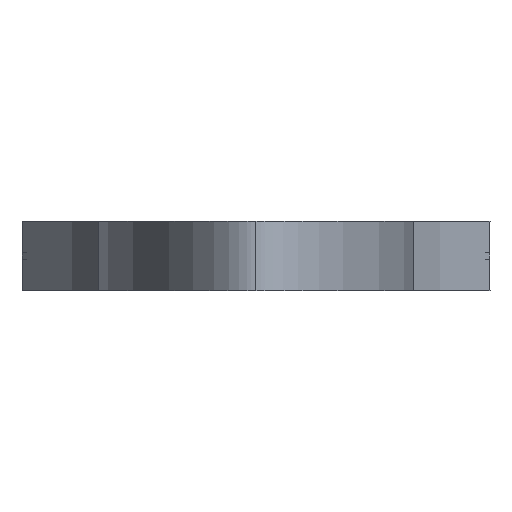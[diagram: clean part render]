
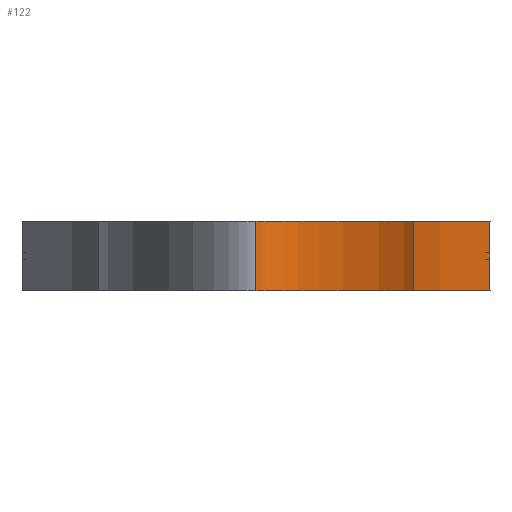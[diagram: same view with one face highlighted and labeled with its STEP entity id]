
A CAD part, left-side view. The second image highlights one B-rep face of the part: STEP entity #122.
In plain terms, the highlighted free-form (B-spline) face has degree [3, 1] with [12, 2] control points.
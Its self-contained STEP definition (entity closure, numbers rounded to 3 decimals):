
#11 = CARTESIAN_POINT ( 'NONE',  ( 89.014, 11.106, -3. ) ) ;
#122 = ADVANCED_FACE ( 'NONE', ( #3540 ), #166, .T. ) ;
#153 = CARTESIAN_POINT ( 'NONE',  ( 15.482, 19.337, 2.5 ) ) ;
#166 = B_SPLINE_SURFACE_WITH_KNOTS ( 'NONE', 3, 1, ( 
 ( #2290, #3443 ),
 ( #4630, #1927 ),
 ( #3902, #1952 ),
 ( #4680, #3493 ),
 ( #3468, #431 ),
 ( #1618, #1156 ),
 ( #4277, #3826 ),
 ( #4302, #3927 ),
 ( #744, #356 ),
 ( #378, #841 ),
 ( #4652, #1898 ),
 ( #4984, #1230 ) ),
 .UNSPECIFIED., .F., .F., .F.,
 ( 4, 1, 1, 1, 1, 1, 1, 1, 1, 4 ),
 ( 2, 2 ),
 ( 0., 0.104, 0.124, 0.198, 0.222, 0.349, 0.508, 0.659, 0.865, 1. ),
 ( 0., 1. ),
 .UNSPECIFIED. ) ;
#178 = EDGE_CURVE ( 'NONE', #245, #599, #1979, .T. ) ;
#216 = LINE ( 'NONE', #2113, #4024 ) ;
#245 = VERTEX_POINT ( 'NONE', #2734 ) ;
#342 = CARTESIAN_POINT ( 'NONE',  ( 15.482, 19.337, -3. ) ) ;
#356 = CARTESIAN_POINT ( 'NONE',  ( 58.111, 19.758, -3. ) ) ;
#378 = CARTESIAN_POINT ( 'NONE',  ( 75.673, 21.078, 2.5 ) ) ;
#431 = CARTESIAN_POINT ( 'NONE',  ( 10.679, 21.348, -3. ) ) ;
#441 = CARTESIAN_POINT ( 'NONE',  ( 1.35, 29.727, -3. ) ) ;
#536 = CARTESIAN_POINT ( 'NONE',  ( 89.014, 11.106, 2.5 ) ) ;
#599 = VERTEX_POINT ( 'NONE', #3386 ) ;
#670 = DIRECTION ( 'NONE',  ( 0., 0., -1. ) ) ;
#744 = CARTESIAN_POINT ( 'NONE',  ( 58.111, 19.758, 2.5 ) ) ;
#841 = CARTESIAN_POINT ( 'NONE',  ( 75.673, 21.078, -3. ) ) ;
#894 = CARTESIAN_POINT ( 'NONE',  ( 89.014, 11.106, 2.5 ) ) ;
#954 = VERTEX_POINT ( 'NONE', #3691 ) ;
#1142 = CARTESIAN_POINT ( 'NONE',  ( 25.999, 16.764, -3. ) ) ;
#1156 = CARTESIAN_POINT ( 'NONE',  ( 15.482, 19.337, -3. ) ) ;
#1199 = ORIENTED_EDGE ( 'NONE', *, *, #1976, .F. ) ;
#1230 = CARTESIAN_POINT ( 'NONE',  ( 89.014, 11.106, -3. ) ) ;
#1307 = CARTESIAN_POINT ( 'NONE',  ( 25.999, 16.764, 2.5 ) ) ;
#1358 = VERTEX_POINT ( 'NONE', #441 ) ;
#1441 = VECTOR ( 'NONE', #3977, 1000. ) ;
#1528 = CARTESIAN_POINT ( 'NONE',  ( 7.586, 22.772, -3. ) ) ;
#1539 = EDGE_CURVE ( 'NONE', #599, #954, #3572, .T. ) ;
#1552 = CARTESIAN_POINT ( 'NONE',  ( 10.679, 21.348, -3. ) ) ;
#1618 = CARTESIAN_POINT ( 'NONE',  ( 15.482, 19.337, 2.5 ) ) ;
#1647 = LINE ( 'NONE', #894, #1441 ) ;
#1695 = CARTESIAN_POINT ( 'NONE',  ( 3.52, 25.659, 2.5 ) ) ;
#1720 = ORIENTED_EDGE ( 'NONE', *, *, #4907, .F. ) ;
#1812 = EDGE_CURVE ( 'NONE', #4397, #1900, #4778, .T. ) ;
#1842 = ORIENTED_EDGE ( 'NONE', *, *, #2597, .T. ) ;
#1882 = CARTESIAN_POINT ( 'NONE',  ( 3.52, 25.659, -3. ) ) ;
#1898 = CARTESIAN_POINT ( 'NONE',  ( 85.658, 14.128, -3. ) ) ;
#1900 = VERTEX_POINT ( 'NONE', #1908 ) ;
#1908 = CARTESIAN_POINT ( 'NONE',  ( 1.35, 29.727, 2.5 ) ) ;
#1920 = VECTOR ( 'NONE', #3171, 1000. ) ;
#1923 = EDGE_LOOP ( 'NONE', ( #1842, #1199, #3608, #3352, #1720, #4138 ) ) ;
#1927 = CARTESIAN_POINT ( 'NONE',  ( 1.35, 27.904, -3. ) ) ;
#1952 = CARTESIAN_POINT ( 'NONE',  ( 3.52, 25.659, -3. ) ) ;
#1976 = EDGE_CURVE ( 'NONE', #245, #1358, #3632, .T. ) ;
#1979 = LINE ( 'NONE', #2760, #4839 ) ;
#2081 = CARTESIAN_POINT ( 'NONE',  ( 75.673, 21.078, 2.5 ) ) ;
#2113 = CARTESIAN_POINT ( 'NONE',  ( 1.35, 29.727, 2.5 ) ) ;
#2273 = CARTESIAN_POINT ( 'NONE',  ( 58.111, 19.758, -3. ) ) ;
#2290 = CARTESIAN_POINT ( 'NONE',  ( 1.35, 29.727, 2.5 ) ) ;
#2419 = CARTESIAN_POINT ( 'NONE',  ( 89.014, 11.106, 2.5 ) ) ;
#2462 = CARTESIAN_POINT ( 'NONE',  ( 58.111, 19.758, 2.5 ) ) ;
#2597 = EDGE_CURVE ( 'NONE', #1900, #1358, #216, .T. ) ;
#2734 = CARTESIAN_POINT ( 'NONE',  ( 89.014, 11.106, -3. ) ) ;
#2760 = CARTESIAN_POINT ( 'NONE',  ( 89.014, 11.106, -3. ) ) ;
#2863 = CARTESIAN_POINT ( 'NONE',  ( 1.35, 27.904, 2.5 ) ) ;
#3025 = CARTESIAN_POINT ( 'NONE',  ( 40.956, 17.345, -3. ) ) ;
#3171 = DIRECTION ( 'NONE',  ( 0., 0., 1. ) ) ;
#3237 = CARTESIAN_POINT ( 'NONE',  ( 85.658, 14.128, 2.5 ) ) ;
#3352 = ORIENTED_EDGE ( 'NONE', *, *, #1539, .T. ) ;
#3386 = CARTESIAN_POINT ( 'NONE',  ( 89.014, 11.106, -0.5 ) ) ;
#3428 = CARTESIAN_POINT ( 'NONE',  ( 1.35, 27.904, -3. ) ) ;
#3443 = CARTESIAN_POINT ( 'NONE',  ( 1.35, 29.727, -3. ) ) ;
#3468 = CARTESIAN_POINT ( 'NONE',  ( 10.679, 21.348, 2.5 ) ) ;
#3493 = CARTESIAN_POINT ( 'NONE',  ( 7.586, 22.772, -3. ) ) ;
#3517 = DIRECTION ( 'NONE',  ( 0., 0., 1. ) ) ;
#3540 = FACE_OUTER_BOUND ( 'NONE', #1923, .T. ) ;
#3572 = LINE ( 'NONE', #3887, #1920 ) ;
#3608 = ORIENTED_EDGE ( 'NONE', *, *, #178, .T. ) ;
#3615 = CARTESIAN_POINT ( 'NONE',  ( 10.679, 21.348, 2.5 ) ) ;
#3632 = B_SPLINE_CURVE_WITH_KNOTS ( 'NONE', 3,
 ( #11, #4262, #4915, #2273, #3025, #1142, #342, #1552, #1528, #1882, #3428, #4211 ),
 .UNSPECIFIED., .F., .F.,
 ( 4, 1, 1, 1, 1, 1, 1, 1, 1, 4 ),
 ( 0., 0.135, 0.341, 0.492, 0.651, 0.778, 0.802, 0.876, 0.896, 1. ),
 .UNSPECIFIED. ) ;
#3691 = CARTESIAN_POINT ( 'NONE',  ( 89.014, 11.106, 0. ) ) ;
#3826 = CARTESIAN_POINT ( 'NONE',  ( 25.999, 16.764, -3. ) ) ;
#3887 = CARTESIAN_POINT ( 'NONE',  ( 89.014, 11.106, -0.25 ) ) ;
#3902 = CARTESIAN_POINT ( 'NONE',  ( 3.52, 25.659, 2.5 ) ) ;
#3927 = CARTESIAN_POINT ( 'NONE',  ( 40.956, 17.345, -3. ) ) ;
#3977 = DIRECTION ( 'NONE',  ( 0., 0., -1. ) ) ;
#3998 = CARTESIAN_POINT ( 'NONE',  ( 1.35, 29.727, 2.5 ) ) ;
#4024 = VECTOR ( 'NONE', #670, 1000. ) ;
#4138 = ORIENTED_EDGE ( 'NONE', *, *, #1812, .T. ) ;
#4211 = CARTESIAN_POINT ( 'NONE',  ( 1.35, 29.727, -3. ) ) ;
#4262 = CARTESIAN_POINT ( 'NONE',  ( 85.658, 14.128, -3. ) ) ;
#4277 = CARTESIAN_POINT ( 'NONE',  ( 25.999, 16.764, 2.5 ) ) ;
#4302 = CARTESIAN_POINT ( 'NONE',  ( 40.956, 17.345, 2.5 ) ) ;
#4397 = VERTEX_POINT ( 'NONE', #2419 ) ;
#4405 = CARTESIAN_POINT ( 'NONE',  ( 40.956, 17.345, 2.5 ) ) ;
#4630 = CARTESIAN_POINT ( 'NONE',  ( 1.35, 27.904, 2.5 ) ) ;
#4652 = CARTESIAN_POINT ( 'NONE',  ( 85.658, 14.128, 2.5 ) ) ;
#4680 = CARTESIAN_POINT ( 'NONE',  ( 7.586, 22.772, 2.5 ) ) ;
#4778 = B_SPLINE_CURVE_WITH_KNOTS ( 'NONE', 3,
 ( #536, #3237, #2081, #2462, #4405, #1307, #153, #3615, #4781, #1695, #2863, #3998 ),
 .UNSPECIFIED., .F., .F.,
 ( 4, 1, 1, 1, 1, 1, 1, 1, 1, 4 ),
 ( 0., 0.135, 0.341, 0.492, 0.651, 0.778, 0.802, 0.876, 0.896, 1. ),
 .UNSPECIFIED. ) ;
#4781 = CARTESIAN_POINT ( 'NONE',  ( 7.586, 22.772, 2.5 ) ) ;
#4839 = VECTOR ( 'NONE', #3517, 1000. ) ;
#4907 = EDGE_CURVE ( 'NONE', #4397, #954, #1647, .T. ) ;
#4915 = CARTESIAN_POINT ( 'NONE',  ( 75.673, 21.078, -3. ) ) ;
#4984 = CARTESIAN_POINT ( 'NONE',  ( 89.014, 11.106, 2.5 ) ) ;
